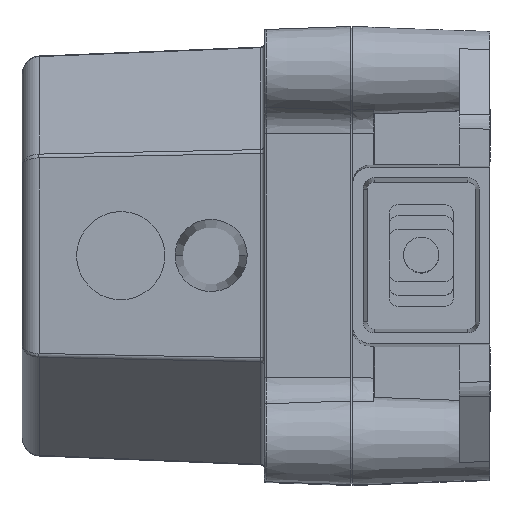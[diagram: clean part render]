
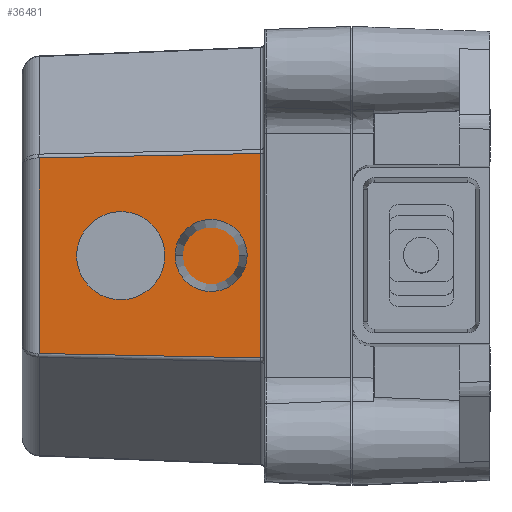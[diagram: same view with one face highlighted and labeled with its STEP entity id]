
A CAD part, top view. The second image highlights one B-rep face of the part: STEP entity #36481.
In plain terms, the highlighted planar face has unit normal (-0.035, 0, 0.999) as drawn and (0, -0.035, -0.999) by its records, which use the part's own axes.
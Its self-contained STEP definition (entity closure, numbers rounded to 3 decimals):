
#33 = ORIENTED_EDGE ( 'NONE', *, *, #18202, .T. ) ;
#2136 = EDGE_CURVE ( 'NONE', #30557, #47004, #19635, .T. ) ;
#2398 = CARTESIAN_POINT ( 'NONE',  ( -11.096, 1.93, -19.718 ) ) ;
#4305 = LINE ( 'NONE', #13850, #22964 ) ;
#4559 = DIRECTION ( 'NONE',  ( 0., 0.035, 0.999 ) ) ;
#9280 = AXIS2_PLACEMENT_3D ( 'NONE', #61032, #4559, #60721 ) ;
#9358 = LINE ( 'NONE', #50207, #38071 ) ;
#10492 = VERTEX_POINT ( 'NONE', #2398 ) ;
#13197 = CARTESIAN_POINT ( 'NONE',  ( 11.096, 1.93, -19.718 ) ) ;
#13850 = CARTESIAN_POINT ( 'NONE',  ( -11.345, 27.017, -20.594 ) ) ;
#14730 = LINE ( 'NONE', #23997, #39761 ) ;
#14911 = ORIENTED_EDGE ( 'NONE', *, *, #39981, .T. ) ;
#18202 = EDGE_CURVE ( 'NONE', #47004, #10492, #14730, .T. ) ;
#19635 = LINE ( 'NONE', #43763, #43866 ) ;
#22964 = VECTOR ( 'NONE', #32101, 1000. ) ;
#23997 = CARTESIAN_POINT ( 'NONE',  ( -11.057, 1.93, -19.718 ) ) ;
#25350 = ORIENTED_EDGE ( 'NONE', *, *, #2136, .T. ) ;
#28434 = EDGE_CURVE ( 'NONE', #54670, #30557, #4305, .T. ) ;
#29282 = CARTESIAN_POINT ( 'NONE',  ( 11.601, 27.017, -20.594 ) ) ;
#30557 = VERTEX_POINT ( 'NONE', #29282 ) ;
#31690 = DIRECTION ( 'NONE',  ( -0.02, 0.999, -0.035 ) ) ;
#32101 = DIRECTION ( 'NONE',  ( 1., 0., 0. ) ) ;
#36481 = ADVANCED_FACE ( 'NONE', ( #51480 ), #37917, .F. ) ;
#37917 = PLANE ( 'NONE',  #9280 ) ;
#38071 = VECTOR ( 'NONE', #31690, 1000. ) ;
#38538 = DIRECTION ( 'NONE',  ( -1., 0., 0. ) ) ;
#39761 = VECTOR ( 'NONE', #38538, 1000. ) ;
#39981 = EDGE_CURVE ( 'NONE', #10492, #54670, #9358, .T. ) ;
#43763 = CARTESIAN_POINT ( 'NONE',  ( 11.048, -0.451, -19.635 ) ) ;
#43866 = VECTOR ( 'NONE', #53278, 1000. ) ;
#44743 = EDGE_LOOP ( 'NONE', ( #14911, #56719, #25350, #33 ) ) ;
#47004 = VERTEX_POINT ( 'NONE', #13197 ) ;
#49472 = CARTESIAN_POINT ( 'NONE',  ( -11.601, 27.017, -20.594 ) ) ;
#50207 = CARTESIAN_POINT ( 'NONE',  ( -11.057, 0.006, -19.65 ) ) ;
#51480 = FACE_OUTER_BOUND ( 'NONE', #44743, .T. ) ;
#53278 = DIRECTION ( 'NONE',  ( -0.02, -0.999, 0.035 ) ) ;
#54670 = VERTEX_POINT ( 'NONE', #49472 ) ;
#56719 = ORIENTED_EDGE ( 'NONE', *, *, #28434, .T. ) ;
#60721 = DIRECTION ( 'NONE',  ( 0., -0.999, 0.035 ) ) ;
#61032 = CARTESIAN_POINT ( 'NONE',  ( -11.345, 0., -19.65 ) ) ;
